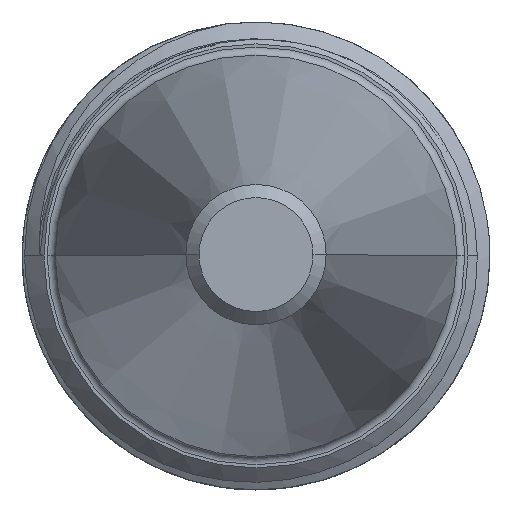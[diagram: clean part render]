
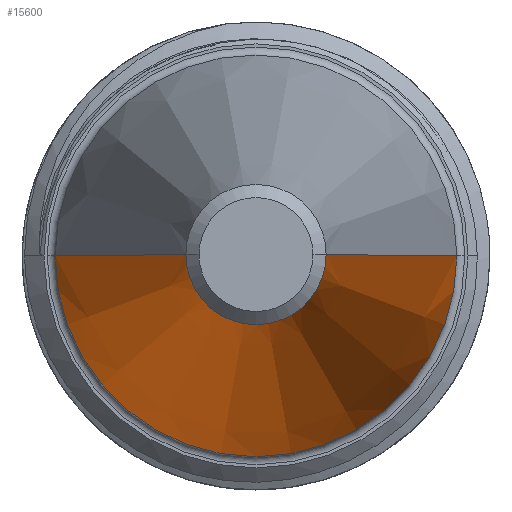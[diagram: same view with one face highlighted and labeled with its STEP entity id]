
A CAD part, top view. The second image highlights one B-rep face of the part: STEP entity #15600.
In plain terms, the highlighted conical face has half-angle 10 degrees and reference radius 9.444 mm.
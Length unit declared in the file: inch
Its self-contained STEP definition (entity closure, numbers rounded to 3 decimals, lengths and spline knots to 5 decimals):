
#492 = DIRECTION ( 'NONE',  ( 1., 0., 0. ) ) ;
#1633 = VERTEX_POINT ( 'NONE', #16245 ) ;
#1848 = CARTESIAN_POINT ( 'NONE',  ( 0.37183, 0., 0.28208 ) ) ;
#3083 = LINE ( 'NONE', #15469, #14404 ) ;
#3291 = ORIENTED_EDGE ( 'NONE', *, *, #16628, .F. ) ;
#3960 = CARTESIAN_POINT ( 'NONE',  ( -0.37183, 0., 0.28208 ) ) ;
#4620 = VERTEX_POINT ( 'NONE', #1848 ) ;
#5210 = CARTESIAN_POINT ( 'NONE',  ( 0., 0., 1.65485 ) ) ;
#5630 = CARTESIAN_POINT ( 'NONE',  ( 0.37183, 0., 0.28208 ) ) ;
#6131 = EDGE_CURVE ( 'NONE', #7782, #4620, #16551, .T. ) ;
#6516 = DIRECTION ( 'NONE',  ( 0., 0., -1. ) ) ;
#6914 = FACE_OUTER_BOUND ( 'NONE', #17605, .T. ) ;
#6981 = DIRECTION ( 'NONE',  ( 0., 0., 1. ) ) ;
#7482 = DIRECTION ( 'NONE',  ( -0.174, 0., -0.985 ) ) ;
#7782 = VERTEX_POINT ( 'NONE', #17600 ) ;
#8090 = CARTESIAN_POINT ( 'NONE',  ( 0., 0., 0.28208 ) ) ;
#8493 = DIRECTION ( 'NONE',  ( -1., 0., 0. ) ) ;
#8639 = VECTOR ( 'NONE', #18531, 39.37008 ) ;
#9297 = CARTESIAN_POINT ( 'NONE',  ( 0., 0., 0.28208 ) ) ;
#9415 = DIRECTION ( 'NONE',  ( 1., 0., 0. ) ) ;
#10492 = ORIENTED_EDGE ( 'NONE', *, *, #6131, .F. ) ;
#11187 = ORIENTED_EDGE ( 'NONE', *, *, #12509, .T. ) ;
#12509 = EDGE_CURVE ( 'NONE', #17514, #4620, #16437, .T. ) ;
#14404 = VECTOR ( 'NONE', #7482, 39.37008 ) ;
#14493 = AXIS2_PLACEMENT_3D ( 'NONE', #8090, #6516, #8493 ) ;
#15469 = CARTESIAN_POINT ( 'NONE',  ( -0.37183, 0., 0.28208 ) ) ;
#15600 = ADVANCED_FACE ( 'NONE', ( #6914 ), #17818, .T. ) ;
#16245 = CARTESIAN_POINT ( 'NONE',  ( -0.12977, 0., 1.65485 ) ) ;
#16437 = CIRCLE ( 'NONE', #19136, 0.37183 ) ;
#16551 = LINE ( 'NONE', #5630, #8639 ) ;
#16628 = EDGE_CURVE ( 'NONE', #1633, #7782, #18433, .T. ) ;
#17514 = VERTEX_POINT ( 'NONE', #3960 ) ;
#17600 = CARTESIAN_POINT ( 'NONE',  ( 0.12977, 0., 1.65485 ) ) ;
#17605 = EDGE_LOOP ( 'NONE', ( #10492, #3291, #19795, #11187 ) ) ;
#17818 = CONICAL_SURFACE ( 'NONE', #14493, 0.37183, 0.175 ) ;
#18433 = CIRCLE ( 'NONE', #20492, 0.12977 ) ;
#18531 = DIRECTION ( 'NONE',  ( 0.174, 0., -0.985 ) ) ;
#19136 = AXIS2_PLACEMENT_3D ( 'NONE', #9297, #20669, #9415 ) ;
#19795 = ORIENTED_EDGE ( 'NONE', *, *, #20775, .T. ) ;
#20492 = AXIS2_PLACEMENT_3D ( 'NONE', #5210, #6981, #492 ) ;
#20669 = DIRECTION ( 'NONE',  ( 0., 0., 1. ) ) ;
#20775 = EDGE_CURVE ( 'NONE', #1633, #17514, #3083, .T. ) ;
